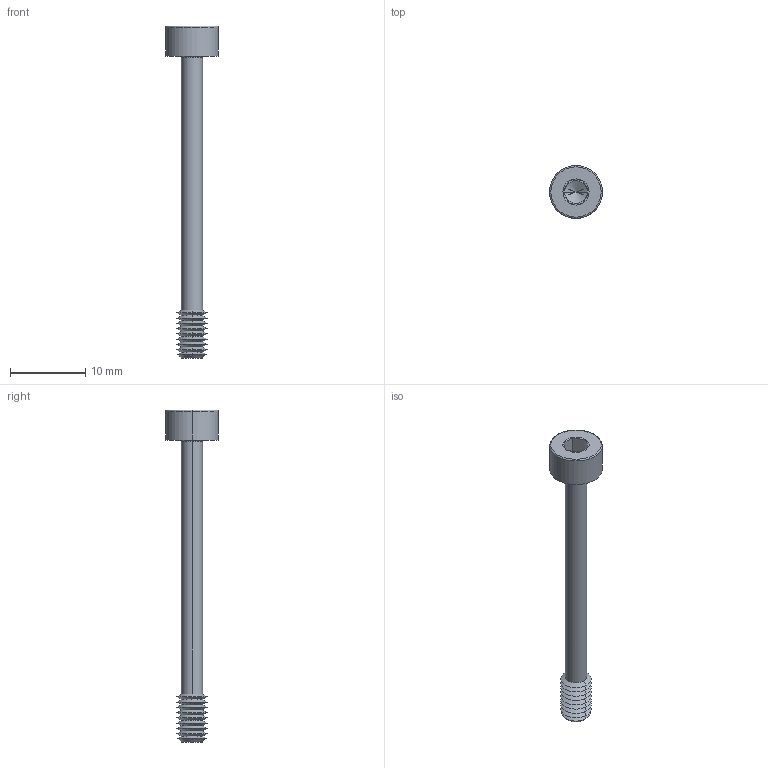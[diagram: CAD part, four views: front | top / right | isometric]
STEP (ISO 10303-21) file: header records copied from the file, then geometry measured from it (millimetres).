
FILE_DESCRIPTION (( 'STEP AP203' ), '1' );
FILE_NAME ('P0154.040-040-BL.step', '2024-06-17T11:25:41', ( '' ), ( '' ), 'SwSTEP 2.0', 'SolidWorks 2019', '' );
FILE_SCHEMA (( 'CONFIG_CONTROL_DESIGN' ));
Length unit declared in the file: millimetre
Products named in the file (1): P0154.040-040-BL
Bounding box: 7 x 7 x 44 mm (x, y, z)
Volume: 393.1 mm3; surface area: 622.5 mm2
Topology: 1 solids, 1 shells, 67 faces, 136 edges, 71 vertices
Faces by surface type: cone 44, plane 15, torus 4, cylinder 4
Entity records: 1787 total; most frequent: DIRECTION 332, CARTESIAN_POINT 299, ORIENTED_EDGE 268, AXIS2_PLACEMENT_3D 136, EDGE_CURVE 134, VERTEX_POINT 71, EDGE_LOOP 69, CIRCLE 68
